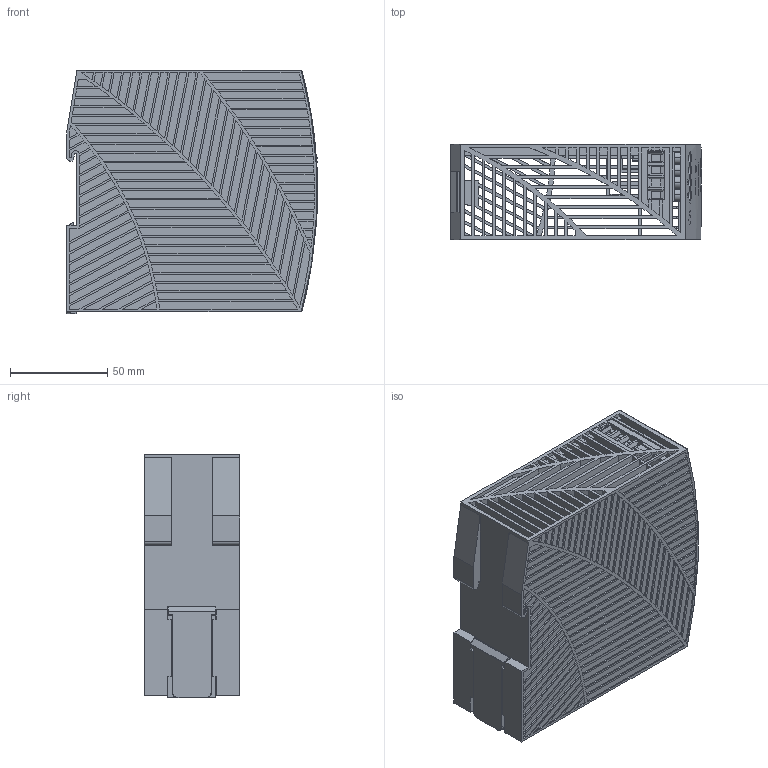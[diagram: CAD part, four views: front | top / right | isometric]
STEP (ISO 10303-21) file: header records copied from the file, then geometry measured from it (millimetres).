
FILE_DESCRIPTION (( 'STEP AP214' ), '1' );
FILE_NAME ('1018109_000.STEP', '2025-01-30T11:56:52', ( '' ), ( '' ), 'SwSTEP 2.0', 'SolidWorks 2024', '' );
FILE_SCHEMA (( 'AUTOMOTIVE_DESIGN' ));
Length unit declared in the file: millimetre
Products named in the file (10): 1018109_000; 1018315_000_BRep_Config; Fronfoil_413.00_BRep_Config; 1018455_000_Feat_Config; 1018093_000_BRep_Config; 1018101_000_BRep_Config; 1018445_000_BRep_Config; 1018449_000_BRep_Config; 1018322_000_Feat_Config; 1018094_000_Feat_Config
Assembly tree (9 placements, depth 2):
  1018109_000
    1018101_000_BRep_Config
    1018094_000_Feat_Config
    1018093_000_BRep_Config
    1018322_000_Feat_Config
    1018315_000_BRep_Config
    1018455_000_Feat_Config
    1018445_000_BRep_Config
    1018449_000_BRep_Config
    Fronfoil_413.00_BRep_Config
Bounding box: 129.02 x 49 x 125 mm (x, y, z)
Volume: 121045.8 mm3; surface area: 145953.6 mm2
Topology: 9 solids, 10 shells, 1815 faces, 5150 edges, 3466 vertices
Faces by surface type: plane 1239, cylinder 474, cone 52, bspline 40, sphere 6, torus 4
Entity records: 74820 total; most frequent: CARTESIAN_POINT 27085, ORIENTED_EDGE 10264, DIRECTION 9212, EDGE_CURVE 5132, LINE 3792, VECTOR 3792, VERTEX_POINT 3466, AXIS2_PLACEMENT_3D 2710
